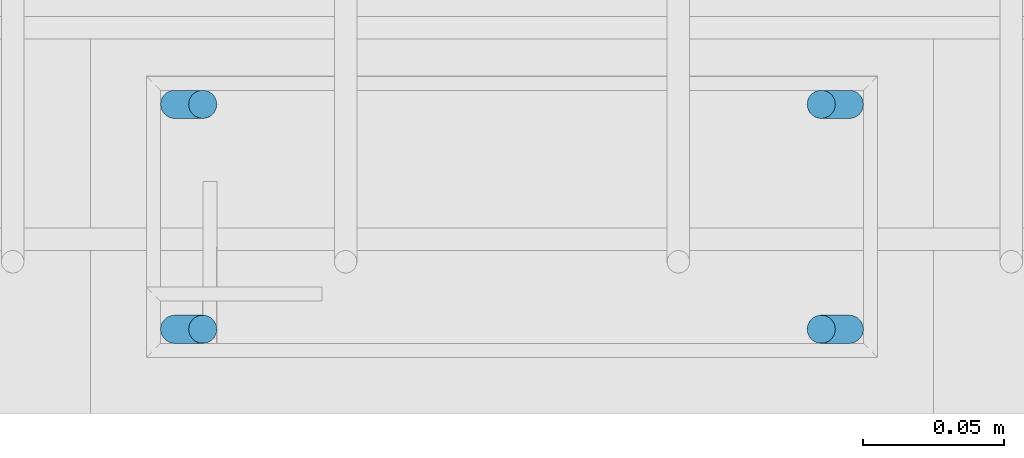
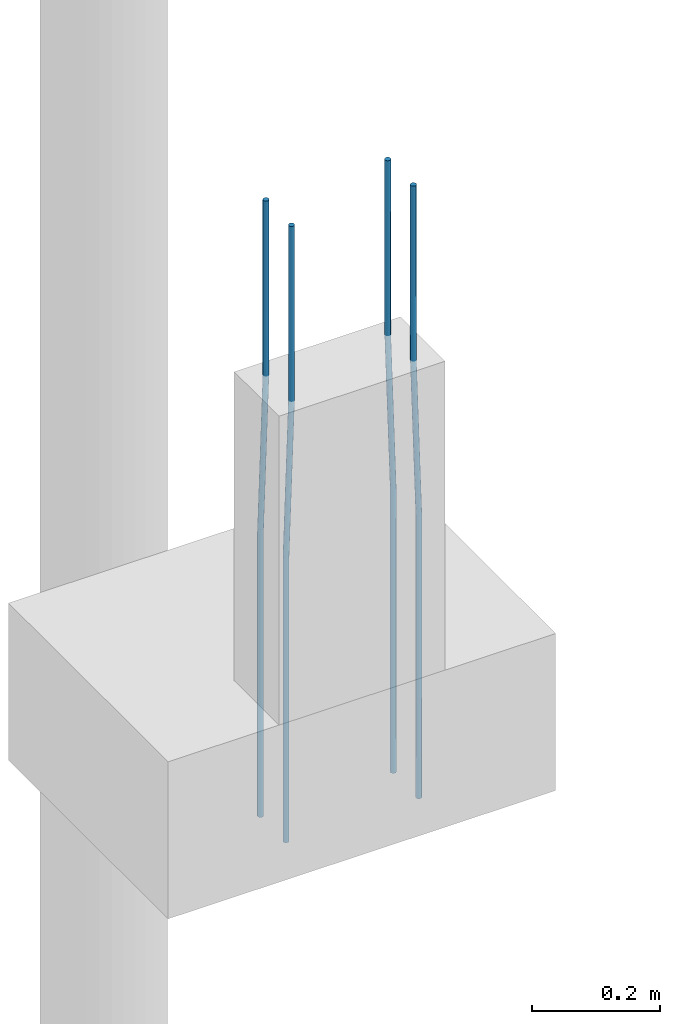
# One storey, part 5 of 119: 4 reinforcing bars.
"""IFC4 building model written with IfcOpenShell, lengths in centimetres."""

from ifc_helpers import new_model, entity, si_unit, derived_unit, frame, origin_with_axes, place, context, project, spatial, element, save


model = new_model("IFC4")

# Units and contexts
model_context = context("Model", 3, precision=1e-05, world=origin_with_axes(), identifier="Body")
ifc_project = project(units=[si_unit("LENGTHUNIT", "METRE", prefix="CENTI"), si_unit("VOLUMEUNIT", "CUBIC_METRE"), si_unit("AREAUNIT", "SQUARE_METRE"), si_unit("POWERUNIT", "WATT"), si_unit("LUMINOUSFLUXUNIT", "LUMEN"), si_unit("ELECTRICCURRENTUNIT", "AMPERE"), si_unit("PRESSUREUNIT", "PASCAL", prefix="KILO"), si_unit("MASSUNIT", "GRAM", prefix="KILO"), si_unit("PLANEANGLEUNIT", "RADIAN"), derived_unit("VOLUMETRICFLOWRATEUNIT", [(si_unit("LENGTHUNIT", "METRE"), 3), (si_unit("TIMEUNIT", "SECOND"), -1)])], contexts=[model_context])

# Site, building, storey
site_placement = place(None, frame((-4000.0, 0.0, 0.0), z_axis=(0.0, 0.0, 1.0), x_axis=(1.0, 0.0, 0.0)))
site = spatial("IfcSite", under=ifc_project, at=site_placement, Name="PADRÃO")
building_placement = place(site_placement, frame((0.0, 0.0, -14.0)))
building = spatial("IfcBuilding", under=site, at=building_placement, Name="CRECHE PRÉ-ESCOLA TIPO 2")
storey_placement = place(building_placement, origin_with_axes())
storey = spatial("IfcBuildingStorey", under=building, at=storey_placement, Name="FUNDAÇÃO", CompositionType="ELEMENT", Elevation=-14.0)

# Reinforcing bars
reinforcing_bar_1_placement = place(storey_placement, frame((28.0, 13.0, 33.3573001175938), z_axis=(0.0, 0.0, 1.0), x_axis=(1.0, 0.0, 0.0)))
element("IfcReinforcingBar", 1, at=reinforcing_bar_1_placement, inside=storey, Name="P155 - Longitudinal", BarLength=0.0, CrossSectionArea=7.853981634e-05, NominalDiameter=1.0, PredefinedType="MAIN", context=model_context, shape_type="AdvancedSweptSolid", body=[
    entity("IfcSweptDiskSolid", entity("IfcCompositeCurve", [entity("IfcCompositeCurveSegment", "CONTINUOUS", True, entity("IfcPolyline", [entity("IfcCartesianPoint", [0.5, 0.0, -117.357300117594]), entity("IfcCartesianPoint", [0.5, 0.0, -63.3573001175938])])), entity("IfcCompositeCurveSegment", "CONTINUOUS", True, entity("IfcPolyline", [entity("IfcCartesianPoint", [0.5, 0.0, -63.3573001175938]), entity("IfcCartesianPoint", [-0.5, 0.0, -33.3573001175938])])), entity("IfcCompositeCurveSegment", "CONTINUOUS", True, entity("IfcPolyline", [entity("IfcCartesianPoint", [-0.5, 0.0, -33.3573001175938]), entity("IfcCartesianPoint", [-0.5, 0.0, 0.0])]))], False), 0.5),
])
for number, where, z_axis, x_axis, name in (
    (2, (5.0, 13.0, 33.3573001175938), (0.0, 0.0, 1.0), (1.0, 0.0, 0.0), "P155 - Longitudinal"),
    (3, (5.0, 5.0, 33.3573001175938), (0.0, 0.0, 1.0), (1.0, 0.0, 0.0), "P155 - Longitudinal"),
):
    element("IfcReinforcingBar", number, at=place(storey_placement, frame(where, z_axis=z_axis, x_axis=x_axis)), inside=storey, Name=name, BarLength=0.0, CrossSectionArea=7.853981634e-05, NominalDiameter=1.0, PredefinedType="MAIN", context=model_context, shape_type="AdvancedSweptSolid", body=[
        entity("IfcSweptDiskSolid", entity("IfcCompositeCurve", [entity("IfcCompositeCurveSegment", "CONTINUOUS", True, entity("IfcPolyline", [entity("IfcCartesianPoint", [-0.5, 0.0, -117.357300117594]), entity("IfcCartesianPoint", [-0.5, 0.0, -63.3573001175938])])), entity("IfcCompositeCurveSegment", "CONTINUOUS", True, entity("IfcPolyline", [entity("IfcCartesianPoint", [-0.5, 0.0, -63.3573001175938]), entity("IfcCartesianPoint", [0.5, 0.0, -33.3573001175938])])), entity("IfcCompositeCurveSegment", "CONTINUOUS", True, entity("IfcPolyline", [entity("IfcCartesianPoint", [0.5, 0.0, -33.3573001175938]), entity("IfcCartesianPoint", [0.5, 0.0, 0.0])]))], False), 0.5),
    ])
reinforcing_bar_2_placement = place(storey_placement, frame((28.0, 5.0, 33.3573001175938), z_axis=(0.0, 0.0, 1.0), x_axis=(1.0, 0.0, 0.0)))
element("IfcReinforcingBar", 4, at=reinforcing_bar_2_placement, inside=storey, Name="P155 - Longitudinal", BarLength=0.0, CrossSectionArea=7.853981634e-05, NominalDiameter=1.0, PredefinedType="MAIN", context=model_context, shape_type="AdvancedSweptSolid", body=[
    entity("IfcSweptDiskSolid", entity("IfcCompositeCurve", [entity("IfcCompositeCurveSegment", "CONTINUOUS", True, entity("IfcPolyline", [entity("IfcCartesianPoint", [0.5, 0.0, -117.357300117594]), entity("IfcCartesianPoint", [0.5, 0.0, -63.3573001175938])])), entity("IfcCompositeCurveSegment", "CONTINUOUS", True, entity("IfcPolyline", [entity("IfcCartesianPoint", [0.5, 0.0, -63.3573001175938]), entity("IfcCartesianPoint", [-0.5, 0.0, -33.3573001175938])])), entity("IfcCompositeCurveSegment", "CONTINUOUS", True, entity("IfcPolyline", [entity("IfcCartesianPoint", [-0.5, 0.0, -33.3573001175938]), entity("IfcCartesianPoint", [-0.5, 0.0, 0.0])]))], False), 0.5),
])

save(model, "model.ifc")
